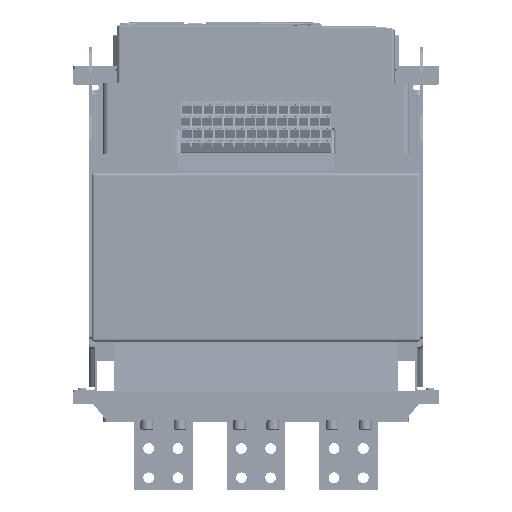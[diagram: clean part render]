
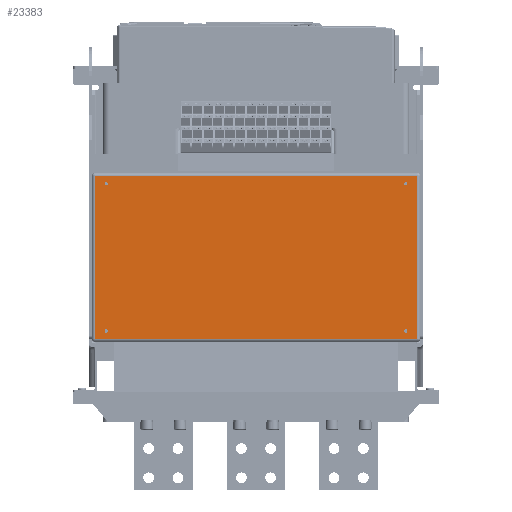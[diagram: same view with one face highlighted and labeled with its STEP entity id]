
A CAD part, front view. The second image highlights one B-rep face of the part: STEP entity #23383.
In plain terms, the highlighted planar face has unit normal (0, -1, 0).
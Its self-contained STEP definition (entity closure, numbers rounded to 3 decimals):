
#20732=CARTESIAN_POINT('',(-153.5,0.,75.5));
#20733=DIRECTION('',(0.,-1.,0.));
#20734=DIRECTION('',(1.,0.,0.));
#20735=AXIS2_PLACEMENT_3D('',#20732,#20733,#20734);
#20740=CARTESIAN_POINT('',(-153.5,0.,75.5));
#20741=DIRECTION('',(0.,-1.,0.));
#20742=DIRECTION('',(-1.,0.,0.));
#20743=AXIS2_PLACEMENT_3D('',#20740,#20741,#20742);
#20748=CARTESIAN_POINT('',(153.5,0.,75.5));
#20749=DIRECTION('',(0.,-1.,0.));
#20750=DIRECTION('',(1.,0.,0.));
#20751=AXIS2_PLACEMENT_3D('',#20748,#20749,#20750);
#20756=CARTESIAN_POINT('',(153.5,0.,75.5));
#20757=DIRECTION('',(0.,-1.,0.));
#20758=DIRECTION('',(-1.,0.,0.));
#20759=AXIS2_PLACEMENT_3D('',#20756,#20757,#20758);
#20764=CARTESIAN_POINT('',(153.5,0.,-75.5));
#20765=DIRECTION('',(0.,-1.,0.));
#20766=DIRECTION('',(1.,0.,0.));
#20767=AXIS2_PLACEMENT_3D('',#20764,#20765,#20766);
#20772=CARTESIAN_POINT('',(153.5,0.,-75.5));
#20773=DIRECTION('',(0.,-1.,0.));
#20774=DIRECTION('',(-1.,0.,0.));
#20775=AXIS2_PLACEMENT_3D('',#20772,#20773,#20774);
#20780=CARTESIAN_POINT('',(-153.5,0.,-75.5));
#20781=DIRECTION('',(0.,-1.,0.));
#20782=DIRECTION('',(1.,0.,0.));
#20783=AXIS2_PLACEMENT_3D('',#20780,#20781,#20782);
#20788=CARTESIAN_POINT('',(-153.5,0.,-75.5));
#20789=DIRECTION('',(0.,-1.,0.));
#20790=DIRECTION('',(-1.,0.,0.));
#20791=AXIS2_PLACEMENT_3D('',#20788,#20789,#20790);
#20796=DIRECTION('',(0.,0.,1.));
#20797=VECTOR('',#20796,167.);
#20798=CARTESIAN_POINT('',(165.5,0.,-83.5));
#20799=LINE('',#20798,#20797);
#20803=DIRECTION('',(1.,0.,0.));
#20804=VECTOR('',#20803,331.);
#20805=CARTESIAN_POINT('',(-165.5,0.,-83.5));
#20806=LINE('',#20805,#20804);
#20810=DIRECTION('',(0.,0.,-1.));
#20811=VECTOR('',#20810,167.);
#20812=CARTESIAN_POINT('',(-165.5,0.,83.5));
#20813=LINE('',#20812,#20811);
#20817=DIRECTION('',(-1.,0.,0.));
#20818=VECTOR('',#20817,331.);
#20819=CARTESIAN_POINT('',(165.5,0.,83.5));
#20820=LINE('',#20819,#20818);
#23080=CARTESIAN_POINT('',(-151.75,0.,75.5));
#23081=CARTESIAN_POINT('',(-155.25,0.,75.5));
#23082=VERTEX_POINT('',#23080);
#23083=VERTEX_POINT('',#23081);
#23084=CARTESIAN_POINT('',(155.25,0.,75.5));
#23085=CARTESIAN_POINT('',(151.75,0.,75.5));
#23086=VERTEX_POINT('',#23084);
#23087=VERTEX_POINT('',#23085);
#23088=CARTESIAN_POINT('',(155.25,0.,-75.5));
#23089=CARTESIAN_POINT('',(151.75,0.,-75.5));
#23090=VERTEX_POINT('',#23088);
#23091=VERTEX_POINT('',#23089);
#23092=CARTESIAN_POINT('',(-151.75,0.,-75.5));
#23093=CARTESIAN_POINT('',(-155.25,0.,-75.5));
#23094=VERTEX_POINT('',#23092);
#23095=VERTEX_POINT('',#23093);
#23212=CARTESIAN_POINT('',(165.5,0.,-83.5));
#23213=CARTESIAN_POINT('',(165.5,0.,83.5));
#23214=VERTEX_POINT('',#23212);
#23215=VERTEX_POINT('',#23213);
#23230=CARTESIAN_POINT('',(-165.5,0.,-83.5));
#23231=VERTEX_POINT('',#23230);
#23244=CARTESIAN_POINT('',(-165.5,0.,83.5));
#23245=VERTEX_POINT('',#23244);
#23344=CARTESIAN_POINT('',(0.,0.,0.));
#23345=DIRECTION('',(0.,1.,0.));
#23346=DIRECTION('',(1.,0.,0.));
#23347=AXIS2_PLACEMENT_3D('',#23344,#23345,#23346);
#23348=PLANE('',#23347);
#23350=ORIENTED_EDGE('',*,*,#23349,.F.);
#23352=ORIENTED_EDGE('',*,*,#23351,.F.);
#23354=ORIENTED_EDGE('',*,*,#23353,.F.);
#23356=ORIENTED_EDGE('',*,*,#23355,.F.);
#23357=EDGE_LOOP('',(#23350,#23352,#23354,#23356));
#23358=FACE_OUTER_BOUND('',#23357,.F.);
#23360=ORIENTED_EDGE('',*,*,#23359,.T.);
#23362=ORIENTED_EDGE('',*,*,#23361,.T.);
#23363=EDGE_LOOP('',(#23360,#23362));
#23364=FACE_BOUND('',#23363,.F.);
#23366=ORIENTED_EDGE('',*,*,#23365,.T.);
#23368=ORIENTED_EDGE('',*,*,#23367,.T.);
#23369=EDGE_LOOP('',(#23366,#23368));
#23370=FACE_BOUND('',#23369,.F.);
#23372=ORIENTED_EDGE('',*,*,#23371,.T.);
#23374=ORIENTED_EDGE('',*,*,#23373,.T.);
#23375=EDGE_LOOP('',(#23372,#23374));
#23376=FACE_BOUND('',#23375,.F.);
#23378=ORIENTED_EDGE('',*,*,#23377,.T.);
#23380=ORIENTED_EDGE('',*,*,#23379,.T.);
#23381=EDGE_LOOP('',(#23378,#23380));
#23382=FACE_BOUND('',#23381,.F.);
#23383=ADVANCED_FACE('',(#23358,#23364,#23370,#23376,#23382),#23348,.F.);
#20736=CIRCLE('',#20735,1.75);
#20744=CIRCLE('',#20743,1.75);
#20752=CIRCLE('',#20751,1.75);
#20760=CIRCLE('',#20759,1.75);
#20768=CIRCLE('',#20767,1.75);
#20776=CIRCLE('',#20775,1.75);
#20784=CIRCLE('',#20783,1.75);
#20792=CIRCLE('',#20791,1.75);
#23349=EDGE_CURVE('',#23214,#23215,#20799,.T.);
#23351=EDGE_CURVE('',#23231,#23214,#20806,.T.);
#23353=EDGE_CURVE('',#23245,#23231,#20813,.T.);
#23355=EDGE_CURVE('',#23215,#23245,#20820,.T.);
#23359=EDGE_CURVE('',#23086,#23087,#20752,.T.);
#23361=EDGE_CURVE('',#23087,#23086,#20760,.T.);
#23365=EDGE_CURVE('',#23090,#23091,#20768,.T.);
#23367=EDGE_CURVE('',#23091,#23090,#20776,.T.);
#23371=EDGE_CURVE('',#23094,#23095,#20784,.T.);
#23373=EDGE_CURVE('',#23095,#23094,#20792,.T.);
#23377=EDGE_CURVE('',#23082,#23083,#20736,.T.);
#23379=EDGE_CURVE('',#23083,#23082,#20744,.T.);
